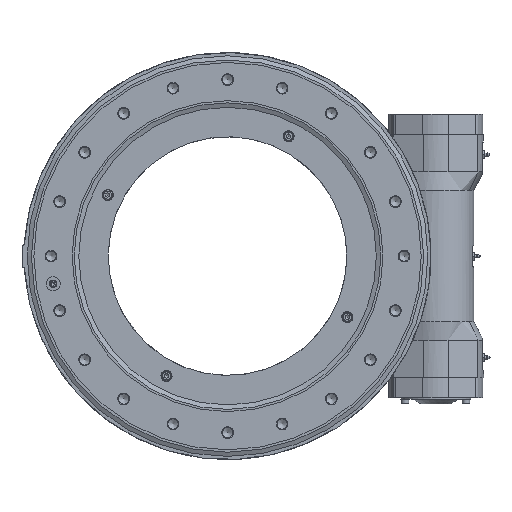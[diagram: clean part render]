
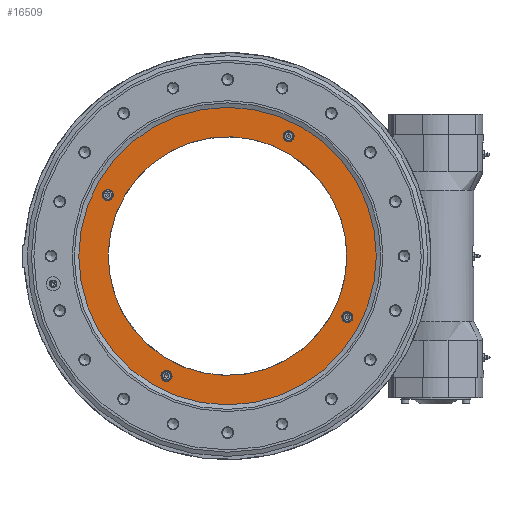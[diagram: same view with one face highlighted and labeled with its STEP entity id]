
A CAD part, left-side view. The second image highlights one B-rep face of the part: STEP entity #16509.
In plain terms, the highlighted planar face has unit normal (-1, 0, 0).
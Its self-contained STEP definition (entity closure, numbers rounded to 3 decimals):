
#170 = DIRECTION ( 'NONE',  ( 0., -0.951, 0.309 ) ) ;
#567 = DIRECTION ( 'NONE',  ( -1., 0., 0. ) ) ;
#2420 = ORIENTED_EDGE ( 'NONE', *, *, #13952, .F. ) ;
#2895 = AXIS2_PLACEMENT_3D ( 'NONE', #38470, #22437, #10008 ) ;
#3062 = DIRECTION ( 'NONE',  ( 0., 0.951, -0.309 ) ) ;
#3958 = AXIS2_PLACEMENT_3D ( 'NONE', #23508, #39509, #20567 ) ;
#4480 = CIRCLE ( 'NONE', #19224, 7.5 ) ;
#5416 = VERTEX_POINT ( 'NONE', #25135 ) ;
#5544 = CARTESIAN_POINT ( 'NONE',  ( -29., -154.071, 50.061 ) ) ;
#6074 = CIRCLE ( 'NONE', #16100, 7.5 ) ;
#6548 = ORIENTED_EDGE ( 'NONE', *, *, #25388, .F. ) ;
#6824 = EDGE_LOOP ( 'NONE', ( #6548 ) ) ;
#8483 = FACE_BOUND ( 'NONE', #32347, .T. ) ;
#8815 = EDGE_CURVE ( 'NONE', #5416, #5416, #40831, .T. ) ;
#9285 = VERTEX_POINT ( 'NONE', #36815 ) ;
#9369 = VERTEX_POINT ( 'NONE', #16039 ) ;
#9387 = ORIENTED_EDGE ( 'NONE', *, *, #32753, .T. ) ;
#9807 = CARTESIAN_POINT ( 'NONE',  ( -29., 0., 0. ) ) ;
#10008 = DIRECTION ( 'NONE',  ( 0., 0.951, -0.309 ) ) ;
#11736 = VERTEX_POINT ( 'NONE', #20405 ) ;
#12687 = EDGE_LOOP ( 'NONE', ( #30738 ) ) ;
#12777 = EDGE_LOOP ( 'NONE', ( #22293 ) ) ;
#13020 = CARTESIAN_POINT ( 'NONE',  ( -29., -162.653, -82.876 ) ) ;
#13952 = EDGE_CURVE ( 'NONE', #9369, #9369, #6074, .T. ) ;
#13970 = FACE_BOUND ( 'NONE', #12777, .T. ) ;
#14567 = CIRCLE ( 'NONE', #2895, 209.5 ) ;
#14810 = CARTESIAN_POINT ( 'NONE',  ( -29., 90.009, -164.971 ) ) ;
#15432 = DIRECTION ( 'NONE',  ( 0., -0.951, 0.309 ) ) ;
#16039 = CARTESIAN_POINT ( 'NONE',  ( -29., -75.743, 160.336 ) ) ;
#16100 = AXIS2_PLACEMENT_3D ( 'NONE', #34624, #34477, #3062 ) ;
#16509 = ADVANCED_FACE ( 'NONE', ( #27938, #8483, #35943, #41384, #13970, #38419 ), #18504, .F. ) ;
#17478 = AXIS2_PLACEMENT_3D ( 'NONE', #20010, #32387, #19564 ) ;
#18504 = PLANE ( 'NONE',  #28499 ) ;
#19224 = AXIS2_PLACEMENT_3D ( 'NONE', #13020, #567, #38804 ) ;
#19564 = DIRECTION ( 'NONE',  ( 0., 0.951, -0.309 ) ) ;
#20010 = CARTESIAN_POINT ( 'NONE',  ( -29., 162.653, 82.876 ) ) ;
#20405 = CARTESIAN_POINT ( 'NONE',  ( -29., 199.246, -64.739 ) ) ;
#20567 = DIRECTION ( 'NONE',  ( 0., 0.951, -0.309 ) ) ;
#21224 = VERTEX_POINT ( 'NONE', #5544 ) ;
#22293 = ORIENTED_EDGE ( 'NONE', *, *, #30746, .T. ) ;
#22437 = DIRECTION ( 'NONE',  ( -1., 0., 0. ) ) ;
#22495 = DIRECTION ( 'NONE',  ( 1., 0., 0. ) ) ;
#23415 = EDGE_LOOP ( 'NONE', ( #2420 ) ) ;
#23508 = CARTESIAN_POINT ( 'NONE',  ( -29., 82.876, -162.653 ) ) ;
#25135 = CARTESIAN_POINT ( 'NONE',  ( -29., 169.786, 80.558 ) ) ;
#25388 = EDGE_CURVE ( 'NONE', #9285, #9285, #4480, .T. ) ;
#26672 = VERTEX_POINT ( 'NONE', #14810 ) ;
#27938 = FACE_BOUND ( 'NONE', #12687, .T. ) ;
#28370 = CIRCLE ( 'NONE', #35922, 162. ) ;
#28499 = AXIS2_PLACEMENT_3D ( 'NONE', #34661, #31318, #15432 ) ;
#29364 = EDGE_LOOP ( 'NONE', ( #9387 ) ) ;
#29973 = ORIENTED_EDGE ( 'NONE', *, *, #8815, .F. ) ;
#30738 = ORIENTED_EDGE ( 'NONE', *, *, #38578, .F. ) ;
#30746 = EDGE_CURVE ( 'NONE', #21224, #21224, #28370, .T. ) ;
#31318 = DIRECTION ( 'NONE',  ( 1., 0., 0. ) ) ;
#32347 = EDGE_LOOP ( 'NONE', ( #29973 ) ) ;
#32387 = DIRECTION ( 'NONE',  ( -1., 0., 0. ) ) ;
#32753 = EDGE_CURVE ( 'NONE', #11736, #11736, #14567, .T. ) ;
#34477 = DIRECTION ( 'NONE',  ( -1., 0., 0. ) ) ;
#34624 = CARTESIAN_POINT ( 'NONE',  ( -29., -82.876, 162.653 ) ) ;
#34661 = CARTESIAN_POINT ( 'NONE',  ( -29., 0., 0. ) ) ;
#35922 = AXIS2_PLACEMENT_3D ( 'NONE', #9807, #22495, #170 ) ;
#35943 = FACE_BOUND ( 'NONE', #23415, .T. ) ;
#36815 = CARTESIAN_POINT ( 'NONE',  ( -29., -155.52, -85.194 ) ) ;
#38419 = FACE_OUTER_BOUND ( 'NONE', #29364, .T. ) ;
#38470 = CARTESIAN_POINT ( 'NONE',  ( -29., 0., 0. ) ) ;
#38578 = EDGE_CURVE ( 'NONE', #26672, #26672, #40474, .T. ) ;
#38804 = DIRECTION ( 'NONE',  ( 0., 0.951, -0.309 ) ) ;
#39509 = DIRECTION ( 'NONE',  ( -1., 0., 0. ) ) ;
#40474 = CIRCLE ( 'NONE', #3958, 7.5 ) ;
#40831 = CIRCLE ( 'NONE', #17478, 7.5 ) ;
#41384 = FACE_BOUND ( 'NONE', #6824, .T. ) ;
